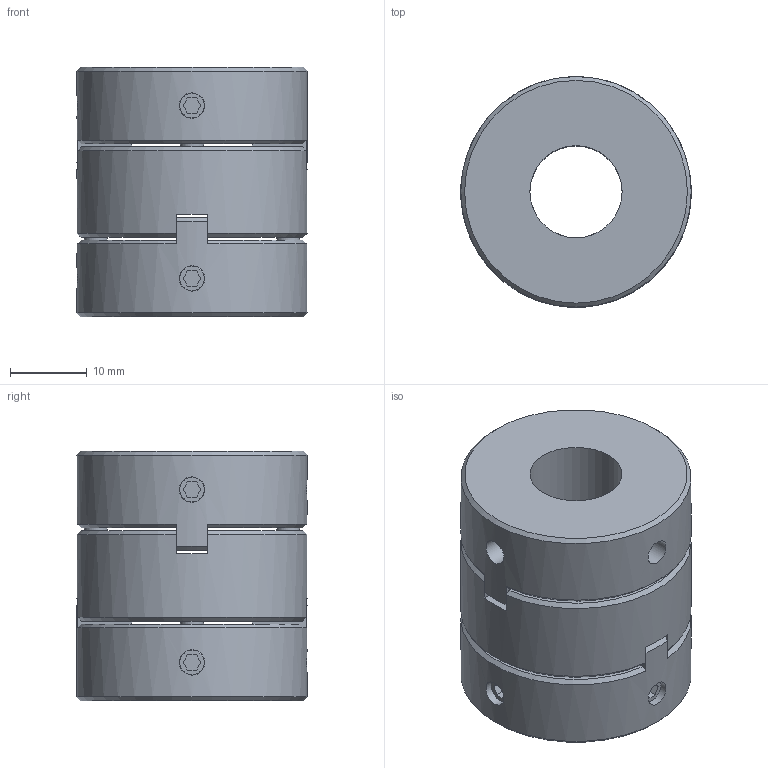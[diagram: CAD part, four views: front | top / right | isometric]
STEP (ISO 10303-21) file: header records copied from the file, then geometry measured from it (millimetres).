
FILE_DESCRIPTION (( 'STEP AP214' ), '1' );
FILE_NAME ('2243-30-B12-12-AL-KU.step', '2022-05-25T13:28:50', ( '' ), ( '' ), 'SwSTEP 2.0', 'SolidWorks 2019', '' );
FILE_SCHEMA (( 'AUTOMOTIVE_DESIGN' ));
Length unit declared in the file: millimetre
Products named in the file (3): 2243-30-B12-12-AL-KU; WB2243_Nabe^WB2243_30-B12; WB2243_Nabe^WB2243_30-B12-G
Assembly tree (2 placements, depth 2):
  2243-30-B12-12-AL-KU
    WB2243_Nabe^WB2243_30-B12-G
    WB2243_Nabe^WB2243_30-B12
Bounding box: 30 x 30 x 32.5 mm (x, y, z)
Volume: 17608.1 mm3; surface area: 7865.9 mm2
Topology: 2 solids, 2 shells, 114 faces, 306 edges, 202 vertices
Faces by surface type: plane 70, cylinder 22, cone 22
Full cylindrical faces by diameter (mm): 3 x4, 3.3 x8, 12 x2, 16.22 x1, 29.98 x1, 30 x2
Entity records: 4692 total; most frequent: CARTESIAN_POINT 1071, DIRECTION 538, ORIENTED_EDGE 520, EDGE_CURVE 260, AXIS2_PLACEMENT_3D 195, VERTEX_POINT 184, EDGE_LOOP 164, VECTOR 148
